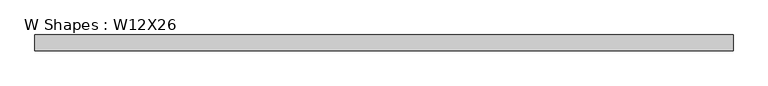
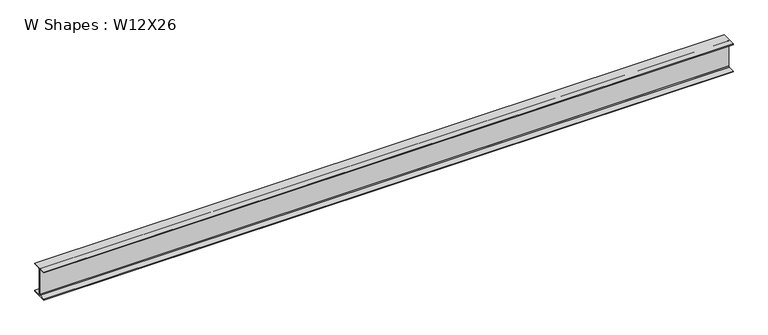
"""IFC4 building model written with IfcOpenShell, lengths in millimetres: beam geometry, W Shapes : W12X26."""

from ifc_helpers import new_model, si_unit, point, frame, frame_2d, origin, place, context, project, spatial, polyline, circle_curve, trimmed, segment, composite_curve, outline, extrude, source, transform, mapped, element, save


def w_shapes_w12x26_b11e058f(model_context):
    return source(origin(), model_context, "Body", "SweptSolid", [
        extrude(outline(composite_curve([segment(polyline([(82.423, -145.288), (82.423, -154.94), (-82.423, -154.94), (-82.423, -145.288), (-10.541, -145.288)]), True, "CONTINUOUS"), segment(trimmed(circle_curve(frame_2d((-10.541, -137.668)), 7.62), [point((-10.541, -145.288))], [point((-2.921, -137.668))], True, "CARTESIAN"), True, "CONTINUOUS"), segment(polyline([(-2.921, -137.668), (-2.921, 137.668)]), True, "CONTINUOUS"), segment(trimmed(circle_curve(frame_2d((-10.541, 137.668)), 7.62), [point((-2.921, 137.668))], [point((-10.541, 145.288))], True, "CARTESIAN"), True, "CONTINUOUS"), segment(polyline([(-10.541, 145.288), (-82.423, 145.288), (-82.423, 154.94), (82.423, 154.94), (82.423, 145.288), (10.541, 145.288)]), True, "CONTINUOUS"), segment(trimmed(circle_curve(frame_2d((10.541, 137.668)), 7.62), [point((10.541, 145.288))], [point((2.921, 137.668))], True, "CARTESIAN"), True, "CONTINUOUS"), segment(polyline([(2.921, 137.668), (2.921, -137.668)]), True, "CONTINUOUS"), segment(trimmed(circle_curve(frame_2d((10.541, -137.668)), 7.62), [point((2.921, -137.668))], [point((10.541, -145.288))], True, "CARTESIAN"), True, "CONTINUOUS"), segment(polyline([(10.541, -145.288), (82.423, -145.288)]), True, "CONTINUOUS")], self_intersect=False)), frame((-3621.8985584, 0.0, 0.0), z_axis=(1.0, 0.0, 0.0), x_axis=(0.0, 1.0, 0.0)), (0.0, 0.0, 1.0), 7227.2180623),
    ])


if __name__ == "__main__":
    model = new_model("IFC4")
    model_context = context("Model", 3, world=origin())
    ifc_project = project(units=[si_unit("LENGTHUNIT", "METRE", prefix="MILLI")], contexts=[model_context])
    site = spatial("IfcSite", under=ifc_project)
    building = spatial("IfcBuilding", under=site)
    placement = place(None, origin())
    w_shapes_w12x26_shape = w_shapes_w12x26_b11e058f(model_context)
    element("IfcBeam", 1, ObjectType="W Shapes : W12X26", at=placement, inside=building, context=model_context, shape_type="MappedRepresentation", body=[
        mapped(w_shapes_w12x26_shape, transform((0.0, 0.0, 0.0), x_axis=(1.0, 0.0, 0.0), y_axis=(0.0, 1.0, 0.0), z_axis=(0.0, 0.0, 1.0))),
    ])
    save(model, "model.ifc")
